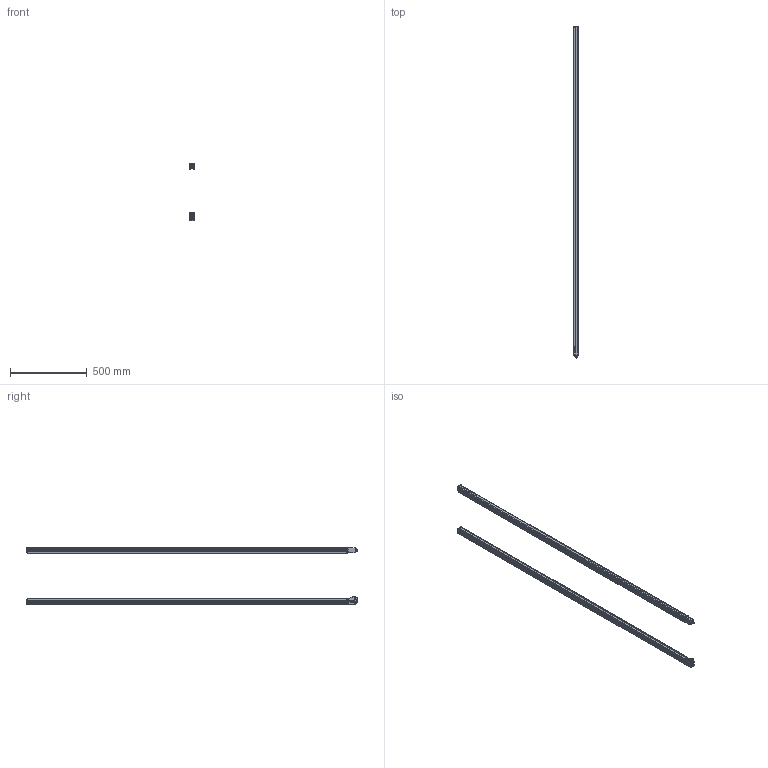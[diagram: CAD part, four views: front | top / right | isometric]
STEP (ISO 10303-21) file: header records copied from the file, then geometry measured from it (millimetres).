
FILE_DESCRIPTION(/* description */ (''),/* implementation_level */ '2;1');
FILE_NAME(/* name */ '3DCAD_CML700_2080_A_EX.stp',/* time_stamp */ '2016-10-19T14:16:48+02:00',/* author */ ('CC2'),/* organization */ ('Leuze electronic'),/* preprocessor_version */ 'ST-DEVELOPER v15',/* originating_system */ 'SIEMENS PLM Software NX 8.5',/* authorisation */ '');
FILE_SCHEMA (('CONFIG_CONTROL_DESIGN'));
Length unit declared in the file: millimetre
Products named in the file (1): 19-102484_00
Bounding box: 30.65 x 2155.3 x 370.4 mm (x, y, z)
Volume: 4215743.9 mm3; surface area: 793799 mm2
Topology: 21 solids, 21 shells, 1213 faces, 3211 edges, 2085 vertices
Faces by surface type: plane 567, cylinder 410, bspline 143, cone 43, torus 36, sphere 14
Full cylindrical faces by diameter (mm): 2 x2, 3.3 x1, 3.7 x4, 3.9 x1, 4 x4, 4.2 x1, 4.65 x4, 5.55 x4, 6 x2, 7 x3, 10.11 x1, 12 x2, 13.98 x1, 15.6 x1, 18 x2, 22.5 x1
Entity records: 41256 total; most frequent: CARTESIAN_POINT 11598, ORIENTED_EDGE 6260, DIRECTION 5942, EDGE_CURVE 3130, AXIS2_PLACEMENT_3D 2075, VERTEX_POINT 2074, LINE 1792, VECTOR 1792
